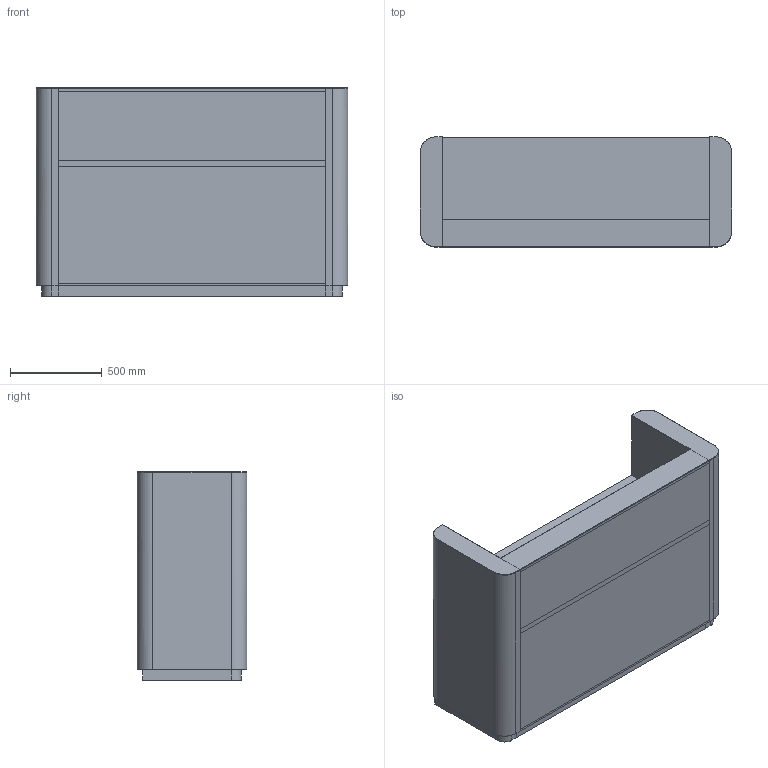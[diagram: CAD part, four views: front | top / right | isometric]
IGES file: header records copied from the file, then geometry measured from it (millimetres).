
Start section: Comment
Global section: file name: Basistheke - 170 x 60.igs; native system:  By UGS Corp.; preprocessor: XPlus GENERIC/IGES 3.0; author: Author; organization: Title; date: 20181120.104324; units: inch
Bounding box: 1700 x 600 x 1140.01 mm (x, y, z)
Surface area: 9826097.4 mm2 (no closed solid volume)
Topology: 0 solids, 0 shells, 64 faces, 340 edges, 340 vertices
Faces by surface type: bspline 64
